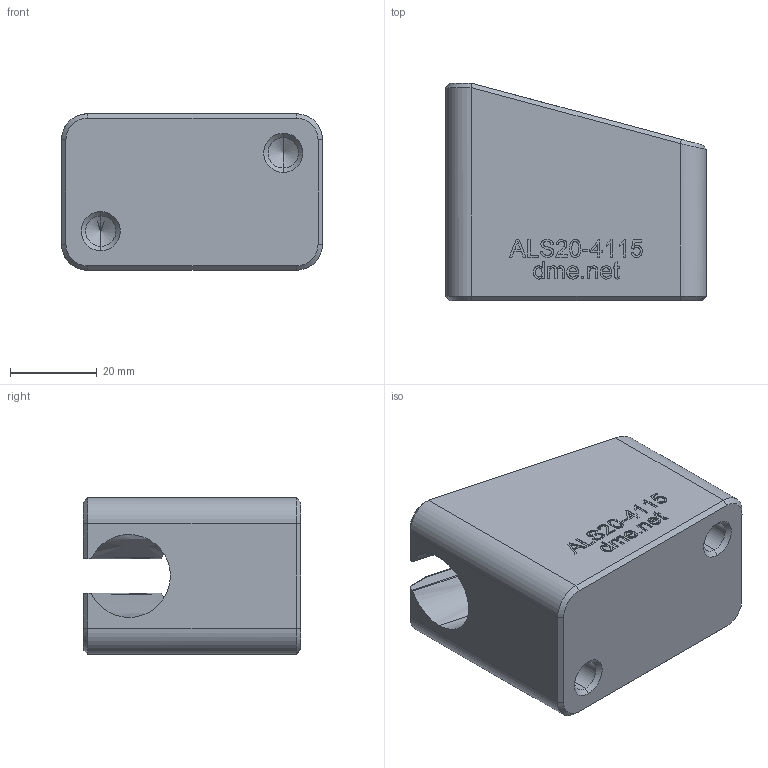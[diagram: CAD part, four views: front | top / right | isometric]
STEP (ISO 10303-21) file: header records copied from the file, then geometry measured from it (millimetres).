
FILE_DESCRIPTION (( 'STEP AP203' ), '1' );
FILE_NAME ('ALS20-4115.STEP', '2021-01-11T12:57:32', ( '' ), ( '' ), 'SwSTEP 2.0', 'SolidWorks 2020', '' );
FILE_SCHEMA (( 'CONFIG_CONTROL_DESIGN' ));
Length unit declared in the file: millimetre
Products named in the file (1): ALS20-4115
Bounding box: 60 x 50 x 36 mm (x, y, z)
Volume: 72741.2 mm3; surface area: 15110.1 mm2
Topology: 1 solids, 1 shells, 279 faces, 733 edges, 477 vertices
Faces by surface type: plane 148, bspline 100, cylinder 17, cone 14
Entity records: 13942 total; most frequent: CARTESIAN_POINT 7726, ORIENTED_EDGE 1458, DIRECTION 900, EDGE_CURVE 729, LINE 484, VECTOR 484, VERTEX_POINT 477, EDGE_LOOP 304
